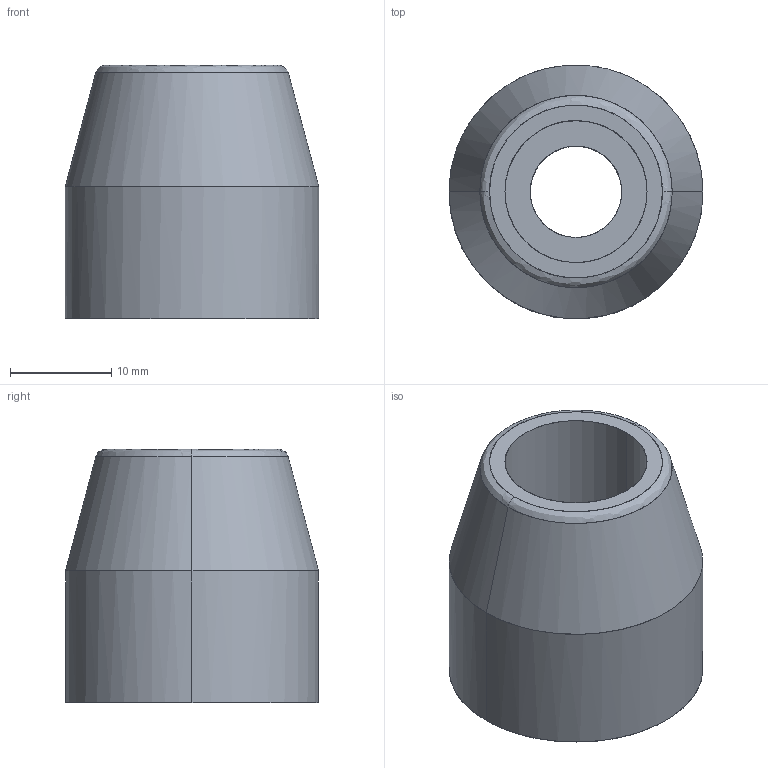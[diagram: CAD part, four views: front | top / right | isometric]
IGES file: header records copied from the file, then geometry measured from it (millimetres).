
Global section: file name: E:\UnigraphicsGraphicData\MISUMI_PRESS-PARTS\IGES\3d_lpu25-25_01655_r00.igs; native system: NX V5.0; preprocessor: UGS NX IGES V5.0; author: MISUMI; date: 20110105.161228; units: millimetre
Bounding box: 25 x 25 x 25 mm (x, y, z)
Surface area: 3373.9 mm2 (no closed solid volume)
Topology: 0 solids, 0 shells, 13 faces, 88 edges, 88 vertices
Faces by surface type: bspline 13
